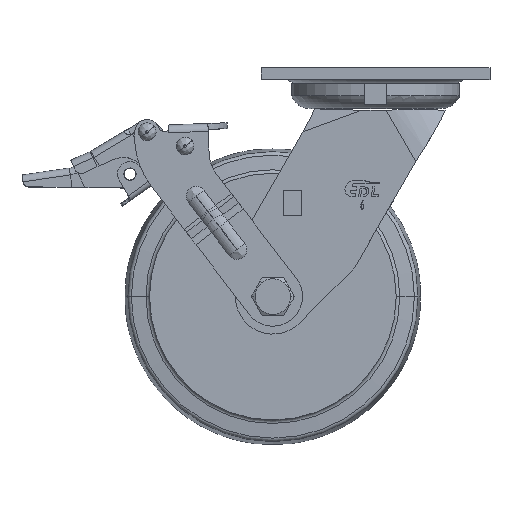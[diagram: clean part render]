
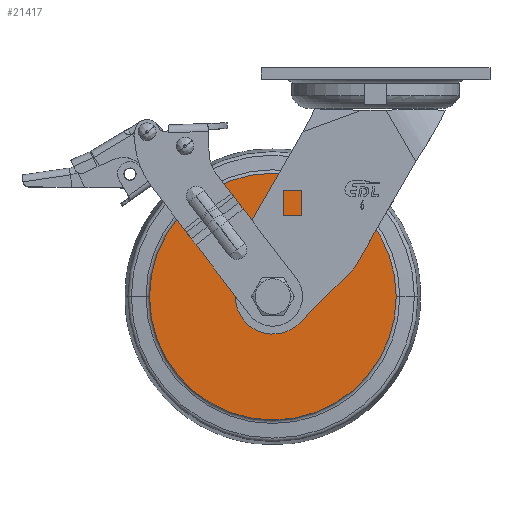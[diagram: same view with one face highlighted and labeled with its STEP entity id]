
A CAD part, top view. The second image highlights one B-rep face of the part: STEP entity #21417.
In plain terms, the highlighted planar face has unit normal (0, 0, 1) as drawn and (-1, 0, 0) by its records, which use the part's own axes.
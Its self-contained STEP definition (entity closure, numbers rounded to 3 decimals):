
#20952=CARTESIAN_POINT('',(-25.,0.,0.));
#20953=DIRECTION('',(-1.,0.,0.));
#20954=DIRECTION('',(0.,1.,0.));
#20955=AXIS2_PLACEMENT_3D('',#20952,#20953,#20954);
#20957=CARTESIAN_POINT('',(-25.,0.,0.));
#20958=DIRECTION('',(1.,0.,0.));
#20959=DIRECTION('',(0.,1.,0.));
#20960=AXIS2_PLACEMENT_3D('',#20957,#20958,#20959);
#20962=CARTESIAN_POINT('',(-25.,0.,0.));
#20963=DIRECTION('',(1.,0.,0.));
#20964=DIRECTION('',(0.,1.,0.));
#20965=AXIS2_PLACEMENT_3D('',#20962,#20963,#20964);
#20975=CARTESIAN_POINT('',(-25.,0.,0.));
#20976=DIRECTION('',(-1.,0.,0.));
#20977=DIRECTION('',(0.,1.,0.));
#20978=AXIS2_PLACEMENT_3D('',#20975,#20976,#20977);
#21106=CARTESIAN_POINT('',(-25.,62.5,0.));
#21107=VERTEX_POINT('',#21106);
#21108=CARTESIAN_POINT('',(-25.,12.,0.));
#21110=VERTEX_POINT('',#21108);
#21138=CARTESIAN_POINT('',(-25.,-62.5,0.));
#21139=VERTEX_POINT('',#21138);
#21140=CARTESIAN_POINT('',(-25.,-12.,0.));
#21142=VERTEX_POINT('',#21140);
#21402=CARTESIAN_POINT('',(-25.,0.,0.));
#21403=DIRECTION('',(1.,0.,0.));
#21404=DIRECTION('',(0.,-1.,0.));
#21405=AXIS2_PLACEMENT_3D('',#21402,#21403,#21404);
#21406=PLANE('',#21405);
#21407=ORIENTED_EDGE('',*,*,#21395,.F.);
#21408=ORIENTED_EDGE('',*,*,#21384,.T.);
#21409=EDGE_LOOP('',(#21407,#21408));
#21410=FACE_OUTER_BOUND('',#21409,.F.);
#21412=ORIENTED_EDGE('',*,*,#21411,.F.);
#21414=ORIENTED_EDGE('',*,*,#21413,.T.);
#21415=EDGE_LOOP('',(#21412,#21414));
#21416=FACE_BOUND('',#21415,.F.);
#20956=CIRCLE('',#20955,62.5);
#20961=CIRCLE('',#20960,62.5);
#20966=CIRCLE('',#20965,12.);
#20979=CIRCLE('',#20978,12.);
#21384=EDGE_CURVE('',#21107,#21139,#20961,.T.);
#21395=EDGE_CURVE('',#21107,#21139,#20956,.T.);
#21411=EDGE_CURVE('',#21110,#21142,#20966,.T.);
#21413=EDGE_CURVE('',#21110,#21142,#20979,.T.);
#21417=ADVANCED_FACE('',(#21410,#21416),#21406,.F.);
